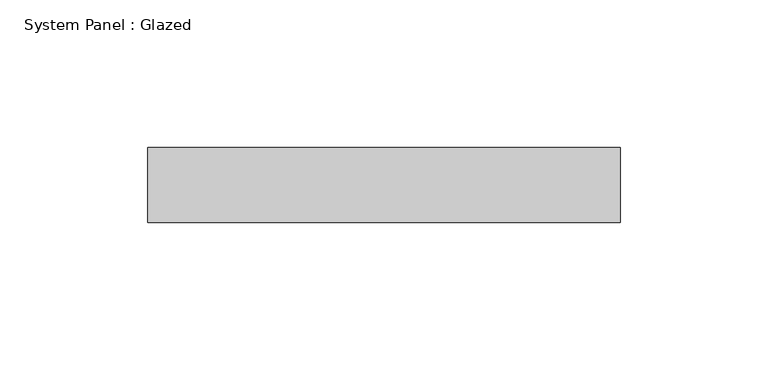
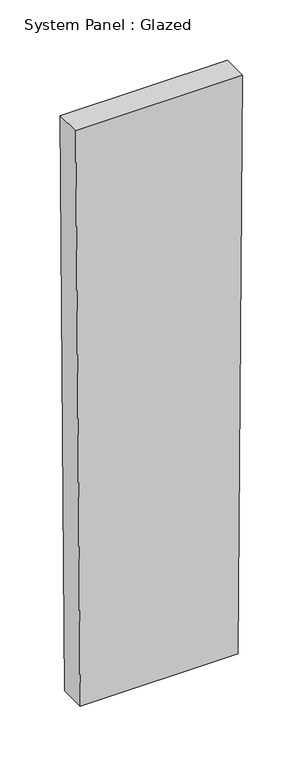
"""IFC4 building model written with IfcOpenShell, lengths in millimetres: plate geometry, System Panel : Glazed."""

from ifc_helpers import new_model, si_unit, frame, origin, place, context, project, spatial, polyline, outline, extrude, source, transform, mapped, element, save


def system_panel_glazed_8389d453(model_context):
    return source(origin(), model_context, "Body", "SweptSolid", [
        extrude(outline(polyline([(0.0, -75.6698455), (0.0, 75.6698455), (584.1823182, 80.1193697), (584.1823182, -80.1193697), (0.0, -75.6698455)])), frame((0.0, -44.45, 0.0), z_axis=(0.0, 1.0, 0.0), x_axis=(0.0, 0.0, 1.0)), (0.0, 0.0, 1.0), 25.4),
    ])


if __name__ == "__main__":
    model = new_model("IFC4")
    model_context = context("Model", 3, world=origin())
    ifc_project = project(units=[si_unit("LENGTHUNIT", "METRE", prefix="MILLI")], contexts=[model_context])
    site = spatial("IfcSite", under=ifc_project)
    building = spatial("IfcBuilding", under=site)
    placement = place(None, origin())
    system_panel_glazed_shape = system_panel_glazed_8389d453(model_context)
    element("IfcPlate", 1, ObjectType="System Panel : Glazed", at=placement, inside=building, context=model_context, shape_type="MappedRepresentation", body=[
        mapped(system_panel_glazed_shape, transform((0.0, 0.0, 0.0), x_axis=(1.0, 0.0, 0.0), y_axis=(0.0, 1.0, 0.0), z_axis=(0.0, 0.0, 1.0))),
    ])
    save(model, "model.ifc")
